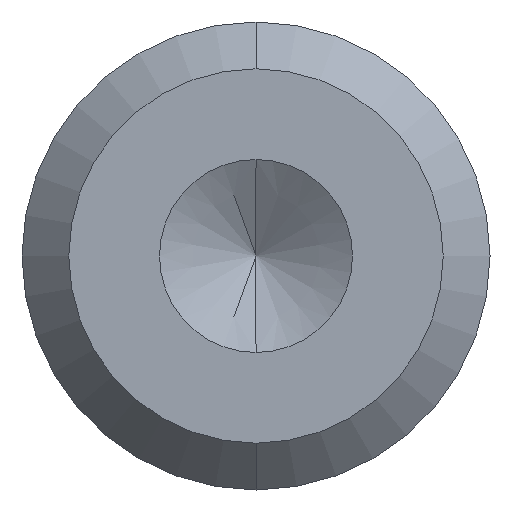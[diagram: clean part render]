
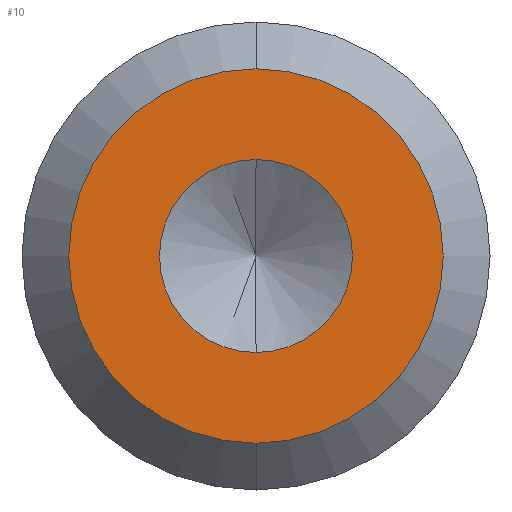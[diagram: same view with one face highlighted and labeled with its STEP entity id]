
A CAD part, front view. The second image highlights one B-rep face of the part: STEP entity #10.
In plain terms, the highlighted planar face has unit normal (0, -1, 0).
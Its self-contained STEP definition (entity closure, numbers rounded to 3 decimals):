
#7 = DIRECTION ( 'NONE',  ( 0., -1., 0. ) ) ;
#10 = ADVANCED_FACE ( 'NONE', ( #238, #312 ), #277, .F. ) ;
#21 = CARTESIAN_POINT ( 'NONE',  ( 0., 0., 0. ) ) ;
#23 = DIRECTION ( 'NONE',  ( 0., 0., 1. ) ) ;
#25 = EDGE_CURVE ( 'NONE', #85, #369, #423, .T. ) ;
#33 = DIRECTION ( 'NONE',  ( 0., 0., -1. ) ) ;
#35 = EDGE_CURVE ( 'NONE', #369, #85, #140, .T. ) ;
#64 = DIRECTION ( 'NONE',  ( 0., 0., 1. ) ) ;
#72 = CARTESIAN_POINT ( 'NONE',  ( 0., 0., -1.65 ) ) ;
#80 = ORIENTED_EDGE ( 'NONE', *, *, #25, .T. ) ;
#82 = CIRCLE ( 'NONE', #149, 1.65 ) ;
#84 = DIRECTION ( 'NONE',  ( 0., -1., 0. ) ) ;
#85 = VERTEX_POINT ( 'NONE', #236 ) ;
#86 = DIRECTION ( 'NONE',  ( 0., 0., -1. ) ) ;
#87 = ORIENTED_EDGE ( 'NONE', *, *, #411, .F. ) ;
#112 = VERTEX_POINT ( 'NONE', #142 ) ;
#113 = AXIS2_PLACEMENT_3D ( 'NONE', #432, #430, #64 ) ;
#130 = CARTESIAN_POINT ( 'NONE',  ( 0., 0., 0. ) ) ;
#140 = CIRCLE ( 'NONE', #113, 3.2 ) ;
#142 = CARTESIAN_POINT ( 'NONE',  ( 0., 0., 1.65 ) ) ;
#149 = AXIS2_PLACEMENT_3D ( 'NONE', #181, #7, #33 ) ;
#154 = EDGE_LOOP ( 'NONE', ( #87, #455 ) ) ;
#177 = DIRECTION ( 'NONE',  ( 0., 1., 0. ) ) ;
#181 = CARTESIAN_POINT ( 'NONE',  ( 0., 0., 0. ) ) ;
#236 = CARTESIAN_POINT ( 'NONE',  ( 0., 0., -3.2 ) ) ;
#238 = FACE_OUTER_BOUND ( 'NONE', #400, .T. ) ;
#242 = EDGE_CURVE ( 'NONE', #112, #300, #82, .T. ) ;
#274 = DIRECTION ( 'NONE',  ( 0., -1., 0. ) ) ;
#275 = CARTESIAN_POINT ( 'NONE',  ( 0., 0., 0. ) ) ;
#277 = PLANE ( 'NONE',  #357 ) ;
#284 = DIRECTION ( 'NONE',  ( 0., 0., 1. ) ) ;
#295 = AXIS2_PLACEMENT_3D ( 'NONE', #275, #84, #86 ) ;
#300 = VERTEX_POINT ( 'NONE', #72 ) ;
#312 = FACE_BOUND ( 'NONE', #154, .T. ) ;
#313 = AXIS2_PLACEMENT_3D ( 'NONE', #130, #274, #284 ) ;
#338 = ORIENTED_EDGE ( 'NONE', *, *, #35, .T. ) ;
#343 = CARTESIAN_POINT ( 'NONE',  ( 0., 0., 3.2 ) ) ;
#357 = AXIS2_PLACEMENT_3D ( 'NONE', #21, #177, #23 ) ;
#369 = VERTEX_POINT ( 'NONE', #343 ) ;
#400 = EDGE_LOOP ( 'NONE', ( #338, #80 ) ) ;
#411 = EDGE_CURVE ( 'NONE', #300, #112, #449, .T. ) ;
#423 = CIRCLE ( 'NONE', #313, 3.2 ) ;
#430 = DIRECTION ( 'NONE',  ( 0., -1., 0. ) ) ;
#432 = CARTESIAN_POINT ( 'NONE',  ( 0., 0., 0. ) ) ;
#449 = CIRCLE ( 'NONE', #295, 1.65 ) ;
#455 = ORIENTED_EDGE ( 'NONE', *, *, #242, .F. ) ;
